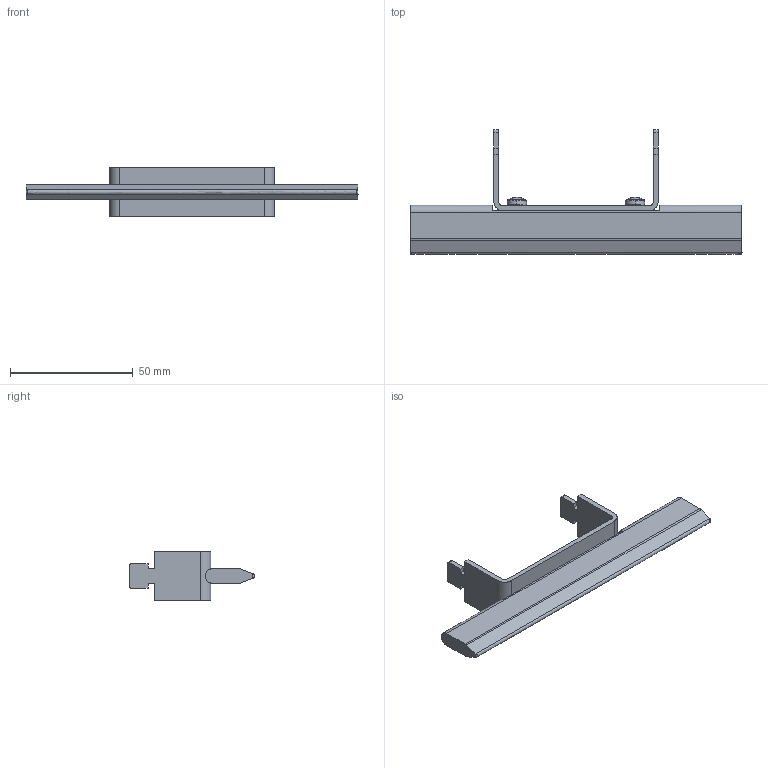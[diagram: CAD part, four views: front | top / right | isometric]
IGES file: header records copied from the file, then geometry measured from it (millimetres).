
Start section: SolidWorks IGES file using analytic representation for surfaces
Global section: file name: U:\14_RD\05_Technical_office\04_Office\Hrdinova\3D modely - IGES\Varius - Ostatní\ZP1.IGS; native system: SolidWorks 2011; preprocessor: SolidWorks 2011; author: adhrja3; date: 170621.073201; units: millimetre
Bounding box: 135 x 50.7 x 20 mm (x, y, z)
Surface area: 12151.4 mm2 (no closed solid volume)
Topology: 0 solids, 0 shells, 145 faces, 1494 edges, 1486 vertices
Faces by surface type: bspline 97, revolution 48
